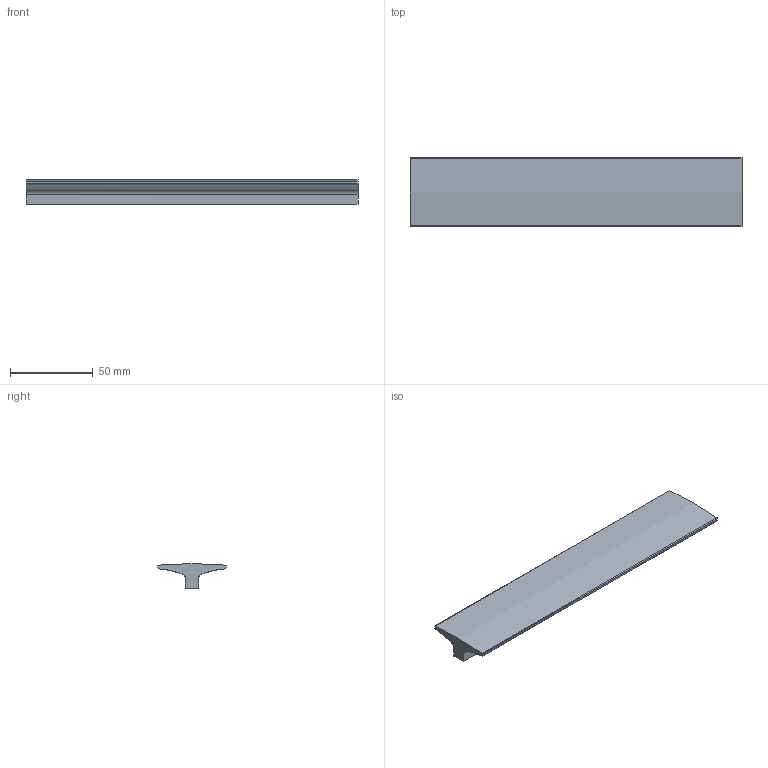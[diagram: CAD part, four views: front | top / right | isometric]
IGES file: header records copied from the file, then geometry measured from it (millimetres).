
Start section: C
Global section: file name: 8236-200.igs; native system: By Siemens PLM Incorporated; preprocessor: XPlus GENERIC/IGES 16.0.42; author: Author; organization: Title; date: 20231114.125128; units: millimetre
Bounding box: 200 x 41 x 15 mm (x, y, z)
Surface area: 21049.8 mm2 (no closed solid volume)
Topology: 0 solids, 0 shells, 20 faces, 104 edges, 104 vertices
Faces by surface type: bspline 20
